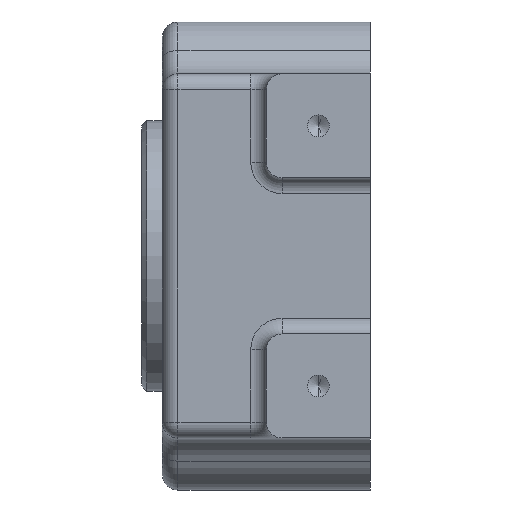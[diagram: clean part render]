
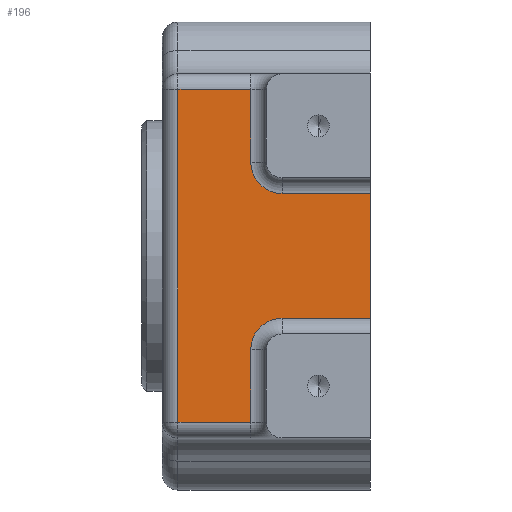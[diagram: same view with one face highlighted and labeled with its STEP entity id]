
A CAD part, left-side view. The second image highlights one B-rep face of the part: STEP entity #196.
In plain terms, the highlighted planar face has unit normal (-1, 0, 0).
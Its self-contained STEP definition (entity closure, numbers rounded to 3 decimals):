
#52 = VERTEX_POINT ( 'NONE', #2869 ) ;
#80 = VECTOR ( 'NONE', #1855, 1000. ) ;
#97 = VERTEX_POINT ( 'NONE', #586 ) ;
#142 = LINE ( 'NONE', #2588, #2623 ) ;
#181 = EDGE_CURVE ( 'NONE', #97, #2950, #1363, .T. ) ;
#183 = LINE ( 'NONE', #2692, #797 ) ;
#196 = ADVANCED_FACE ( 'NONE', ( #236 ), #2934, .F. ) ;
#218 = DIRECTION ( 'NONE',  ( 1., 0., 0. ) ) ;
#228 = VECTOR ( 'NONE', #2213, 1000. ) ;
#236 = FACE_OUTER_BOUND ( 'NONE', #2822, .T. ) ;
#244 = CARTESIAN_POINT ( 'NONE',  ( 0., 17., 18. ) ) ;
#282 = CARTESIAN_POINT ( 'NONE',  ( 0., 0., 35. ) ) ;
#297 = DIRECTION ( 'NONE',  ( 0., 0., -1. ) ) ;
#304 = CARTESIAN_POINT ( 'NONE',  ( 0., 23., 32. ) ) ;
#399 = LINE ( 'NONE', #639, #738 ) ;
#422 = AXIS2_PLACEMENT_3D ( 'NONE', #1441, #2344, #297 ) ;
#424 = VECTOR ( 'NONE', #2255, 1000. ) ;
#454 = ORIENTED_EDGE ( 'NONE', *, *, #1545, .T. ) ;
#479 = EDGE_CURVE ( 'NONE', #52, #2896, #399, .T. ) ;
#481 = LINE ( 'NONE', #282, #80 ) ;
#487 = VERTEX_POINT ( 'NONE', #1956 ) ;
#511 = VECTOR ( 'NONE', #633, 1000. ) ;
#586 = CARTESIAN_POINT ( 'NONE',  ( 0., 23., 18. ) ) ;
#608 = EDGE_CURVE ( 'NONE', #2755, #97, #2460, .T. ) ;
#633 = DIRECTION ( 'NONE',  ( 0., -1., 0. ) ) ;
#639 = CARTESIAN_POINT ( 'NONE',  ( 0., 37., 35. ) ) ;
#715 = DIRECTION ( 'NONE',  ( 0., 0., -1. ) ) ;
#738 = VECTOR ( 'NONE', #1317, 1000. ) ;
#778 = ORIENTED_EDGE ( 'NONE', *, *, #1065, .T. ) ;
#797 = VECTOR ( 'NONE', #1773, 1000. ) ;
#817 = CARTESIAN_POINT ( 'NONE',  ( 0., 17., -12. ) ) ;
#923 = ORIENTED_EDGE ( 'NONE', *, *, #1761, .T. ) ;
#1020 = ORIENTED_EDGE ( 'NONE', *, *, #2104, .T. ) ;
#1045 = ORIENTED_EDGE ( 'NONE', *, *, #181, .T. ) ;
#1065 = EDGE_CURVE ( 'NONE', #2476, #2010, #183, .T. ) ;
#1127 = AXIS2_PLACEMENT_3D ( 'NONE', #244, #2695, #1819 ) ;
#1303 = CARTESIAN_POINT ( 'NONE',  ( 0., 23., -18. ) ) ;
#1317 = DIRECTION ( 'NONE',  ( 0., 0., -1. ) ) ;
#1322 = ORIENTED_EDGE ( 'NONE', *, *, #479, .T. ) ;
#1363 = LINE ( 'NONE', #2951, #2697 ) ;
#1424 = EDGE_CURVE ( 'NONE', #2896, #2959, #2678, .T. ) ;
#1441 = CARTESIAN_POINT ( 'NONE',  ( 0., 17., -18. ) ) ;
#1496 = VERTEX_POINT ( 'NONE', #1897 ) ;
#1498 = CARTESIAN_POINT ( 'NONE',  ( 0., 37., -32. ) ) ;
#1503 = ORIENTED_EDGE ( 'NONE', *, *, #2927, .T. ) ;
#1510 = DIRECTION ( 'NONE',  ( 0., 1., 0. ) ) ;
#1511 = LINE ( 'NONE', #1303, #228 ) ;
#1545 = EDGE_CURVE ( 'NONE', #2010, #1496, #481, .T. ) ;
#1546 = CARTESIAN_POINT ( 'NONE',  ( 0., 17., 12. ) ) ;
#1584 = ORIENTED_EDGE ( 'NONE', *, *, #1611, .T. ) ;
#1611 = EDGE_CURVE ( 'NONE', #487, #2476, #2238, .T. ) ;
#1640 = ORIENTED_EDGE ( 'NONE', *, *, #608, .T. ) ;
#1727 = CARTESIAN_POINT ( 'NONE',  ( 0., 0., -12. ) ) ;
#1761 = EDGE_CURVE ( 'NONE', #1496, #2755, #2501, .T. ) ;
#1773 = DIRECTION ( 'NONE',  ( 0., -1., 0. ) ) ;
#1783 = CARTESIAN_POINT ( 'NONE',  ( 0., 40., -32. ) ) ;
#1819 = DIRECTION ( 'NONE',  ( 0., 0., -1. ) ) ;
#1855 = DIRECTION ( 'NONE',  ( 0., 0., 1. ) ) ;
#1897 = CARTESIAN_POINT ( 'NONE',  ( 0., 0., 12. ) ) ;
#1956 = CARTESIAN_POINT ( 'NONE',  ( 0., 23., -18. ) ) ;
#2010 = VERTEX_POINT ( 'NONE', #1727 ) ;
#2013 = ORIENTED_EDGE ( 'NONE', *, *, #1424, .T. ) ;
#2058 = CARTESIAN_POINT ( 'NONE',  ( 0., 40., 35. ) ) ;
#2104 = EDGE_CURVE ( 'NONE', #2959, #487, #1511, .T. ) ;
#2213 = DIRECTION ( 'NONE',  ( 0., 0., 1. ) ) ;
#2236 = CARTESIAN_POINT ( 'NONE',  ( 0., 23., -32. ) ) ;
#2238 = CIRCLE ( 'NONE', #422, 6. ) ;
#2255 = DIRECTION ( 'NONE',  ( 0., 1., 0. ) ) ;
#2344 = DIRECTION ( 'NONE',  ( 1., 0., 0. ) ) ;
#2460 = CIRCLE ( 'NONE', #1127, 6. ) ;
#2476 = VERTEX_POINT ( 'NONE', #817 ) ;
#2501 = LINE ( 'NONE', #2711, #424 ) ;
#2533 = DIRECTION ( 'NONE',  ( 0., 0., 1. ) ) ;
#2588 = CARTESIAN_POINT ( 'NONE',  ( 0., 40., 32. ) ) ;
#2623 = VECTOR ( 'NONE', #1510, 1000. ) ;
#2678 = LINE ( 'NONE', #1783, #511 ) ;
#2692 = CARTESIAN_POINT ( 'NONE',  ( 0., 0., -12. ) ) ;
#2695 = DIRECTION ( 'NONE',  ( 1., 0., 0. ) ) ;
#2697 = VECTOR ( 'NONE', #2533, 1000. ) ;
#2711 = CARTESIAN_POINT ( 'NONE',  ( 0., 40., 12. ) ) ;
#2755 = VERTEX_POINT ( 'NONE', #1546 ) ;
#2785 = AXIS2_PLACEMENT_3D ( 'NONE', #2058, #218, #715 ) ;
#2822 = EDGE_LOOP ( 'NONE', ( #454, #923, #1640, #1045, #1503, #1322, #2013, #1020, #1584, #778 ) ) ;
#2869 = CARTESIAN_POINT ( 'NONE',  ( 0., 37., 32. ) ) ;
#2896 = VERTEX_POINT ( 'NONE', #1498 ) ;
#2927 = EDGE_CURVE ( 'NONE', #2950, #52, #142, .T. ) ;
#2934 = PLANE ( 'NONE',  #2785 ) ;
#2950 = VERTEX_POINT ( 'NONE', #304 ) ;
#2951 = CARTESIAN_POINT ( 'NONE',  ( 0., 23., 35. ) ) ;
#2959 = VERTEX_POINT ( 'NONE', #2236 ) ;
